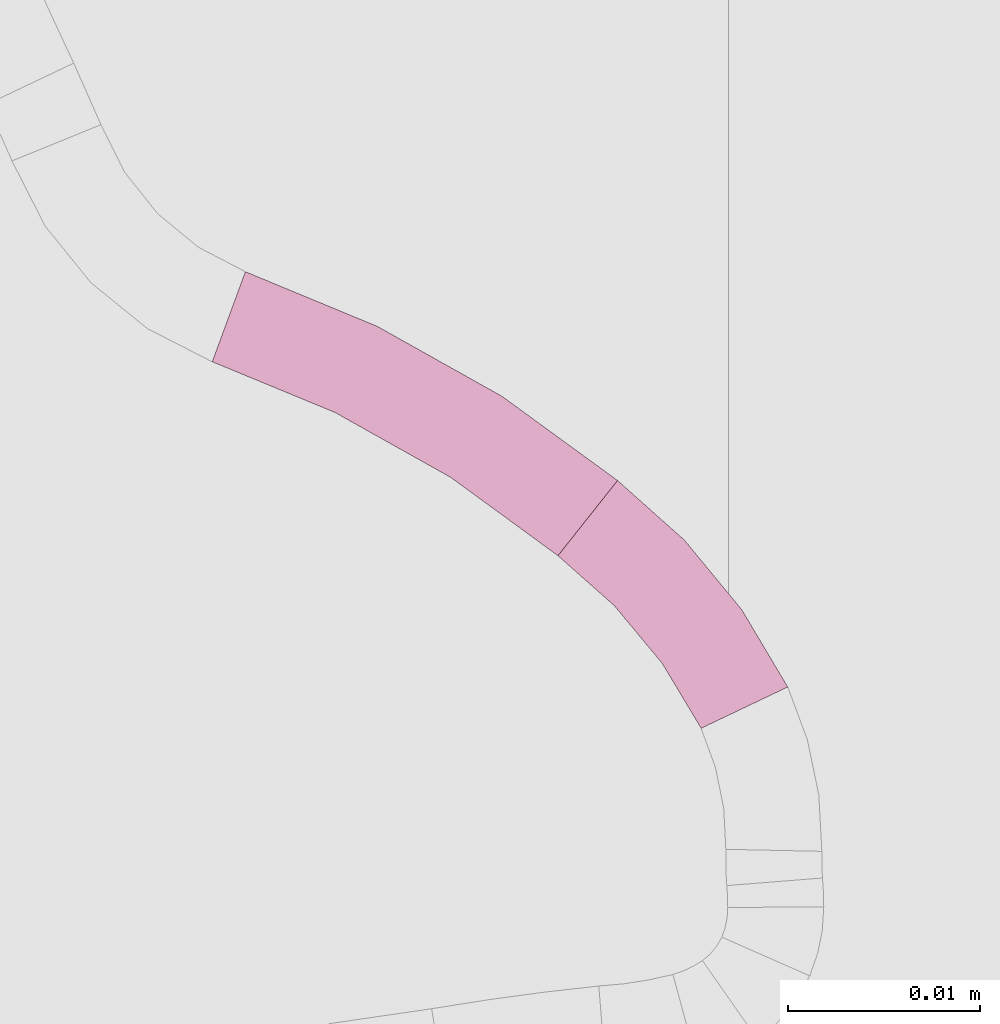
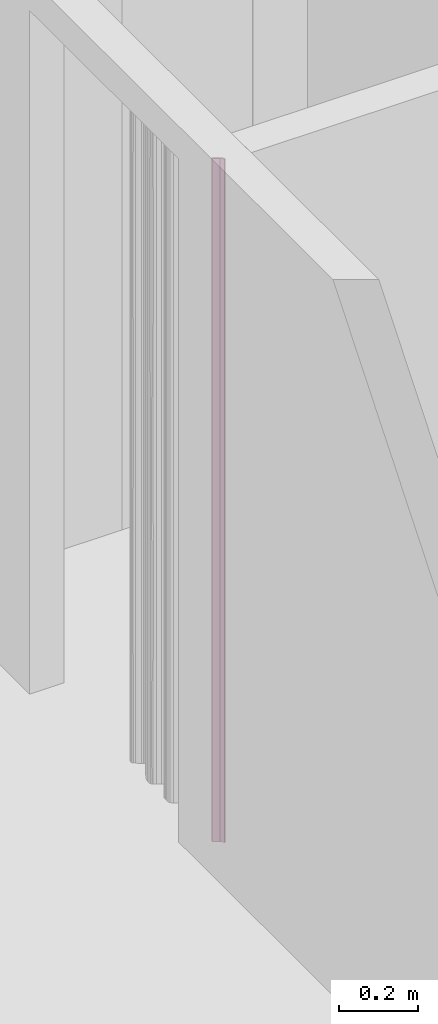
# One storey, part 250 of 418: 2 furnishings.
"""IFC2X3 building model written with IfcOpenShell, lengths in millimetres."""

from ifc_helpers import new_model, entity, si_unit, converted_unit, derived_unit, money_unit, point, direction, frame, frame_2d, origin_with_axes, place, context, subcontext, project, spatial, polyline, circle_curve, parameter, trimmed, segment, composite_curve, outline, extrude, material, type_object, element, save


model = new_model("IFC2X3")

# Units and contexts
model_context = context("Model", 3, precision=0.01, world=origin_with_axes(), true_north=direction((0.0, 1.0)))
body_context = subcontext(model_context, "Body", "Model", "MODEL_VIEW")
ifc_project = project(units=[si_unit("LENGTHUNIT", "METRE", prefix="MILLI"), si_unit("AREAUNIT", "SQUARE_METRE"), si_unit("VOLUMEUNIT", "CUBIC_METRE"), converted_unit("PLANEANGLEUNIT", "DEGREE", entity("IfcPlaneAngleMeasure", 0.0174532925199), si_unit("PLANEANGLEUNIT", "RADIAN"), dimensions=[0, 0, 0, 0, 0, 0, 0]), si_unit("SOLIDANGLEUNIT", "STERADIAN"), money_unit("EUR"), converted_unit("TIMEUNIT", "Year", entity("IfcTimeMeasure", 31556926.0), si_unit("TIMEUNIT", "SECOND"), dimensions=[0, 0, 1, 0, 0, 0, 0]), si_unit("MASSUNIT", "GRAM", prefix="KILO"), si_unit("THERMODYNAMICTEMPERATUREUNIT", "DEGREE_CELSIUS"), si_unit("LUMINOUSINTENSITYUNIT", "LUMEN"), si_unit("ENERGYUNIT", "JOULE", prefix="MEGA"), derived_unit("THERMALCONDUCTANCEUNIT", [(si_unit("POWERUNIT", "WATT"), 1), (si_unit("LENGTHUNIT", "METRE"), -1), (si_unit("THERMODYNAMICTEMPERATUREUNIT", "KELVIN"), -1)]), derived_unit("SPECIFICHEATCAPACITYUNIT", [(si_unit("ENERGYUNIT", "JOULE"), 1), (si_unit("MASSUNIT", "GRAM", prefix="KILO"), -1), (si_unit("THERMODYNAMICTEMPERATUREUNIT", "KELVIN"), -1)]), derived_unit("MASSDENSITYUNIT", [(si_unit("MASSUNIT", "GRAM", prefix="KILO"), 1), (si_unit("VOLUMEUNIT", "CUBIC_METRE"), -1)])], contexts=[model_context])

# Site, building, storey
site_placement = place(None, origin_with_axes())
site = spatial("IfcSite", under=ifc_project, at=site_placement, Name="Paldiski mnt 245/1, Tallinn, Harjumaa", CompositionType="COMPLEX")
building_placement = place(site_placement, origin_with_axes())
building = spatial("IfcBuilding", under=site, at=building_placement, Name="RKAS Hoone üldnimetus (kasutust iseloomustav) -> IFC Project Manager -> SOLIBRI", CompositionType="ELEMENT")
storey_placement = place(building_placement, origin_with_axes())
storey = spatial("IfcBuildingStorey", under=building, at=storey_placement, Name="Esimene korrus", CompositionType="ELEMENT", Elevation=0.0)

# Furnishings
ifc_material = material(Name="KON-00_GENEERILINE - KONSTRUKTSIOON")
furniture_type = type_object("IfcFurnitureType", Name="KON-00_GENEERILINE - KONSTRUKTSIOON 5", AssemblyPlace="NOTDEFINED")
furnishing_1_placement = place(storey_placement, frame((-45031.2786984, -1419.25673042, 0.0), z_axis=(0.0, 0.0, 1.0), x_axis=(-0.771024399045, 0.636805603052, 0.0)))
element("IfcFurnishingElement", 1, at=furnishing_1_placement, inside=storey, type_object=furniture_type, material=ifc_material, Name="SS-61", context=body_context, shape_type="SweptSolid", body=[
    extrude(outline(composite_curve([segment(trimmed(circle_curve(frame_2d((0.0, 57.9206287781), x_axis=(0.00160597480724, -0.999998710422)), 62.9206287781), [point((0.101048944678, -4.99991885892)), parameter(0.0)], [point((21.9738629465, -1.03829652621)), parameter(20.3482992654)], True, "CARTESIAN"), True, "CONTINUOUS"), segment(polyline([(21.9738629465, -1.03829652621), (20.3148211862, 3.67943337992)]), True, "CONTINUOUS"), segment(trimmed(circle_curve(frame_2d((0.0, 57.9206287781), x_axis=(0.0, -1.0)), 57.9206287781), [point((20.3148211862, 3.67943337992)), parameter(20.5323086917)], [point((-2.13162820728e-10, 0.0)), parameter(0.0)], False, "CARTESIAN"), True, "CONTINUOUS"), segment(polyline([(-2.13162820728e-10, 0.0), (0.101048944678, -4.99991885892)]), True, "CONTINUOUS")], self_intersect=False)), origin_with_axes(), (0.0, 0.0, 1.0), 2100.0),
])
furnishing_2_placement = place(storey_placement, frame((-45023.8216434, -1428.24778571, 0.0), z_axis=(0.0, 0.0, 1.0), x_axis=(-0.446599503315, 0.89473397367, 0.0)))
element("IfcFurnishingElement", 2, at=furnishing_2_placement, inside=storey, type_object=furniture_type, material=ifc_material, Name="SS-62", context=body_context, shape_type="SweptSolid", body=[
    extrude(outline(composite_curve([segment(trimmed(circle_curve(frame_2d((0.0, 25.679939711), x_axis=(-0.00295098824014, -0.999995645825)), 30.679939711), [point((-0.0905361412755, -4.99986641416)), parameter(0.0)], [point((13.4945800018, -1.87282804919)), parameter(26.2634080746)], True, "CARTESIAN"), True, "CONTINUOUS"), segment(polyline([(13.4945800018, -1.87282804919), (11.3749196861, 2.65667960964)]), True, "CONTINUOUS"), segment(trimmed(circle_curve(frame_2d((0.0, 25.679939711), x_axis=(0.0, -1.0)), 25.679939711), [point((11.3749196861, 2.65667960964)), parameter(26.2922308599)], [point((1.88293824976e-10, 0.0)), parameter(0.0)], False, "CARTESIAN"), True, "CONTINUOUS"), segment(polyline([(1.88293824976e-10, 0.0), (-0.0905361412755, -4.99986641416)]), True, "CONTINUOUS")], self_intersect=False)), origin_with_axes(), (0.0, 0.0, 1.0), 2100.0),
])

save(model, "model.ifc")
